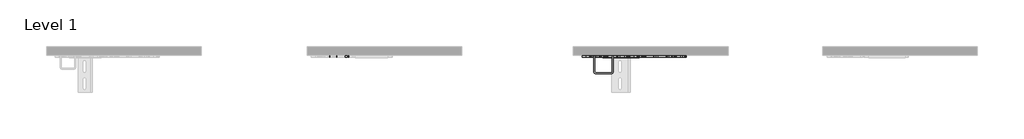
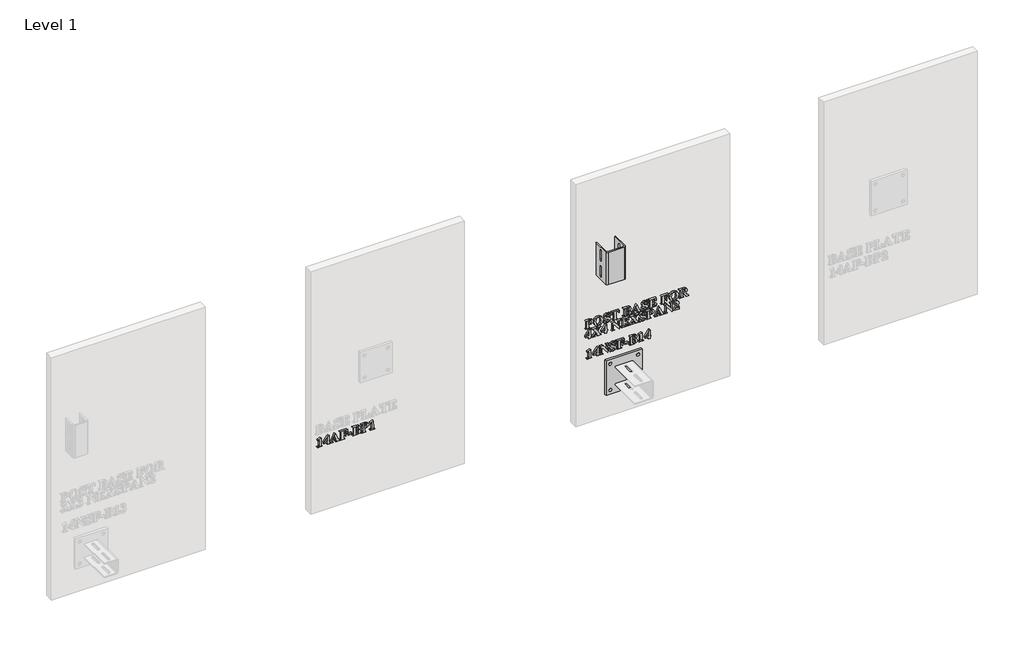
# One storey, part 12 of 21: 5 proxies.
"""IFC4 building model written with IfcOpenShell, lengths in millimetres."""

from ifc_helpers import new_model, si_unit, frame, origin, place, context, project, spatial, polyline, outline, extrude, transform, mapped, element, save
from components import generic_models_8fb2d385, generic_models_17b1e017

model = new_model("IFC4")

# Units and contexts
model_context = context("Model", 3, world=origin())
ifc_project = project(units=[si_unit("LENGTHUNIT", "METRE", prefix="MILLI")], contexts=[model_context])

# Site, building, storey
site = spatial("IfcSite", under=ifc_project)
building = spatial("IfcBuilding", under=site)
storey = spatial("IfcBuildingStorey", under=building, Name="Level 1", Elevation=0.0)

# Proxies
placement = place(None, origin())
element("IfcBuildingElementProxy", 1, Name="2\"\" Arial", ObjectType="2\"\" Arial", at=placement, inside=storey, context=model_context, shape_type="SweptSolid", body=[
    extrude(outline(polyline([(624.2127681, 17684.7890158), (625.1268914, 17698.043803), (630.022991, 17707.1781105), (638.6586857, 17710.4952699), (648.6032388, 17705.4468164), (652.5782899, 17688.7917676), (652.5782899, 17665.2877195), (650.8054448, 17665.2877195), (650.2029545, 17670.0730163), (648.5963136, 17671.8666369), (643.7140644, 17672.3791), (609.1435847, 17672.3791), (604.2751858, 17671.8666369), (602.6685449, 17670.0937918), (602.0522042, 17665.2877195), (600.2793591, 17665.2877195), (600.2793591, 17691.8803962), (602.0522042, 17691.8803962), (602.6546946, 17687.1089498), (604.2613354, 17685.3014788), (609.1435847, 17684.7890158), (624.2127681, 17684.7890158)]), holes=[polyline([(649.9190223, 17684.7890158), (649.9190223, 17686.5757112), (647.1628021, 17695.1975556), (638.4786311, 17698.0853541), (629.6421063, 17695.1975556), (626.7889337, 17686.9773714), (626.8720358, 17684.7890158), (649.9190223, 17684.7890158)])]), frame((0.0, -15490.3579358, 0.0), z_axis=(0.0, 1.0, 0.0), x_axis=(0.0, 0.0, 1.0)), (0.0, 0.0, 1.0), 12.7),
    extrude(outline(polyline([(653.4647125, 17742.0602231), (651.8788471, 17731.5183736), (646.1794271, 17722.7736073), (637.4606302, 17716.8889388), (626.8166344, 17714.9273827), (617.1733265, 17716.4336085), (608.9358294, 17720.952286), (601.7786598, 17730.1696955), (599.3929366, 17742.5588358), (601.8929252, 17754.9168128), (609.392891, 17764.1238346), (626.8581854, 17769.8855812), (637.4969874, 17767.953457), (646.2002026, 17762.1570845), (651.884041, 17753.2686208), (653.4647125, 17742.0602231)]), holes=[polyline([(650.8054448, 17742.5172847), (648.6863409, 17749.130828), (641.4356814, 17753.8537982), (625.9440622, 17755.7028203), (611.8444034, 17753.8884241), (603.9774032, 17748.8191951), (602.0522042, 17742.448033), (606.5120177, 17733.6253585), (626.2487699, 17729.1101436), (643.4924587, 17732.0325679), (648.9771983, 17736.454293), (650.8054448, 17742.5172847)])]), frame((0.0, -15490.3579358, 0.0), z_axis=(0.0, 1.0, 0.0), x_axis=(0.0, 0.0, 1.0)), (0.0, 0.0, 1.0), 12.7),
    extrude(outline(polyline([(653.4647125, 17811.5474413), (653.4647125, 17809.7745962), (650.5284378, 17808.666568), (649.9190223, 17807.0322264), (651.1586288, 17803.2718557), (652.855297, 17798.722015), (653.4647125, 17793.6389356), (649.1364773, 17781.706857), (638.6448354, 17776.9769616), (632.0382173, 17778.6113032), (626.6019539, 17783.2927223), (620.6947786, 17794.1375483), (616.6504757, 17801.8937457), (613.3817925, 17805.1555037), (609.8222519, 17806.228906), (604.3859886, 17803.5627131), (602.0522042, 17796.3951557), (606.366589, 17785.5434046), (618.8942328, 17778.7498067), (618.8942328, 17776.9769616), (599.3929366, 17776.9769616), (599.3929366, 17778.7498067), (602.0660546, 17780.5711281), (602.9386268, 17782.7110075), (602.0799049, 17785.7719354), (599.9538758, 17791.3190016), (599.3929366, 17796.0073459), (604.0743557, 17809.0682282), (615.2654405, 17814.206709), (624.365122, 17811.5889924), (632.813837, 17798.9020695), (637.3013512, 17789.7608369), (640.8608918, 17785.8411872), (643.9218197, 17784.9547646), (648.7209668, 17787.3785763), (650.8054448, 17793.9574937), (646.6711146, 17803.9712985), (635.7362614, 17809.7745962), (635.7362614, 17811.5474413), (653.4647125, 17811.5474413)])), frame((0.0, -15490.3579358, 0.0), z_axis=(0.0, 1.0, 0.0), x_axis=(0.0, 0.0, 1.0)), (0.0, 0.0, 1.0), 12.7),
    extrude(outline(polyline([(652.5782899, 17865.6192173), (652.5782899, 17819.5252443), (637.5091065, 17819.5252443), (637.5091065, 17821.2980894), (646.7195908, 17825.3977938), (649.0325997, 17832.8215827), (649.0325997, 17836.3672729), (609.1435847, 17836.3672729), (604.559118, 17835.9656127), (602.8139736, 17834.4420739), (602.0522042, 17830.9379347), (602.0522042, 17829.2758924), (600.2793591, 17829.2758924), (600.2793591, 17855.8685691), (602.0522042, 17855.8685691), (602.0522042, 17854.2203772), (602.7585722, 17850.8547416), (604.4136893, 17849.1996244), (609.1435847, 17848.7771887), (649.0325997, 17848.7771887), (649.0325997, 17852.3228789), (648.3123814, 17857.2536044), (644.7874667, 17861.2148052), (637.5091065, 17863.8463721), (637.5091065, 17865.6192173), (652.5782899, 17865.6192173)])), frame((0.0, -15490.3579358, 0.0), z_axis=(0.0, 1.0, 0.0), x_axis=(0.0, 0.0, 1.0)), (0.0, 0.0, 1.0), 12.7),
    extrude(outline(polyline([(627.7307576, 17924.123106), (632.4745034, 17933.790652), (639.2819516, 17936.5330218), (646.1240257, 17934.3654416), (650.9577987, 17928.4374908), (652.5782899, 17915.6328399), (652.5782899, 17890.4390488), (650.8054448, 17890.4390488), (650.2029545, 17895.2243456), (648.5963136, 17897.0179662), (643.7140644, 17897.5304293), (609.1435847, 17897.5304293), (604.2751858, 17897.0179662), (602.6685449, 17895.2451211), (602.0522042, 17890.4390488), (600.2793591, 17890.4390488), (600.2793591, 17916.7962695), (604.9053768, 17933.596747), (614.5590725, 17938.3058669), (623.5756519, 17934.1646115), (627.7307576, 17924.123106)]), holes=[polyline([(628.6448809, 17909.9403451), (649.9190223, 17909.9403451), (648.7625178, 17918.5552643), (645.272229, 17922.6826693), (639.4066048, 17924.123106), (633.5063546, 17922.6618938), (629.9191133, 17918.4583118), (628.6448809, 17909.9403451)]), polyline([(625.9856132, 17909.9403451), (624.877585, 17919.289333), (620.7917311, 17923.2713093), (614.1712626, 17924.123106), (608.3194887, 17922.8350232), (604.3167368, 17919.1300539), (602.9386268, 17913.8461445), (604.0051039, 17910.9237201), (607.1629843, 17909.9403451), (609.1020336, 17909.9403451), (625.9856132, 17909.9403451)])]), frame((0.0, -15490.3579358, 0.0), z_axis=(0.0, 1.0, 0.0), x_axis=(0.0, 0.0, 1.0)), (0.0, 0.0, 1.0), 12.7),
    extrude(outline(polyline([(615.3485426, 17973.2641564), (608.7003734, 17976.1865808), (604.559118, 17977.5716161), (602.869375, 17976.7267446), (602.0522042, 17971.4082092), (600.2793591, 17971.4082092), (600.2793591, 17996.8097556), (602.0522042, 17996.8097556), (603.4095388, 17993.1117115), (610.9025794, 17988.6795987), (653.4647125, 17969.0259486), (612.066009, 17950.2033196), (604.3375124, 17945.736581), (602.0522042, 17941.1174884), (600.2793591, 17941.1174884), (600.2793591, 17958.8874906), (602.0522042, 17958.8874906), (602.9386268, 17953.7628602), (606.0272554, 17951.9900151), (610.0300072, 17953.0703426), (615.3485426, 17955.4803039), (615.3485426, 17973.2641564)]), holes=[polyline([(618.8942328, 17971.712917), (618.8942328, 17957.0869448), (635.2376487, 17964.4968833), (618.8942328, 17971.712917)])]), frame((0.0, -15490.3579358, 0.0), z_axis=(0.0, 1.0, 0.0), x_axis=(0.0, 0.0, 1.0)), (0.0, 0.0, 1.0), 12.7),
    extrude(outline(polyline([(653.4647125, 18035.8123481), (653.4647125, 18034.039503), (650.5284378, 18032.9314748), (649.9190223, 18031.2971332), (651.1586288, 18027.5367625), (652.855297, 18022.9869217), (653.4647125, 18017.9038424), (649.1364773, 18005.9717637), (638.6448354, 18001.2418684), (632.0382173, 18002.87621), (626.6019539, 18007.5576291), (620.6947786, 18018.4024551), (616.6504757, 18026.1586524), (613.3817925, 18029.4204104), (609.8222519, 18030.4938127), (604.3859886, 18027.8276199), (602.0522042, 18020.6600625), (606.366589, 18009.8083114), (618.8942328, 18003.0147135), (618.8942328, 18001.2418684), (599.3929366, 18001.2418684), (599.3929366, 18003.0147135), (602.0660546, 18004.8360348), (602.9386268, 18006.9759143), (602.0799049, 18010.0368422), (599.9538758, 18015.5839083), (599.3929366, 18020.2722526), (604.0743557, 18033.333135), (615.2654405, 18038.4716157), (624.365122, 18035.8538991), (632.813837, 18023.1669763), (637.3013512, 18014.0257437), (640.8608918, 18010.1060939), (643.9218197, 18009.2196714), (648.7209668, 18011.6434831), (650.8054448, 18018.2224005), (646.6711146, 18028.2362053), (635.7362614, 18034.039503), (635.7362614, 18035.8123481), (653.4647125, 18035.8123481)])), frame((0.0, -15490.3579358, 0.0), z_axis=(0.0, 1.0, 0.0), x_axis=(0.0, 0.0, 1.0)), (0.0, 0.0, 1.0), 12.7),
    extrude(outline(polyline([(649.0325997, 18062.4050248), (649.0325997, 18066.8371375), (648.3400821, 18074.870342), (644.7320653, 18080.5628368), (636.6226839, 18083.6791661), (636.6226839, 18085.4520112), (652.5782899, 18085.4520112), (652.5782899, 18042.9037285), (650.8054448, 18042.9037285), (650.8054448, 18044.5796212), (649.7805187, 18048.4300191), (647.827619, 18049.8150544), (643.7140644, 18049.995109), (609.1435847, 18049.995109), (604.559118, 18049.5934488), (602.8139736, 18048.0976107), (602.0522042, 18044.5796212), (602.0522042, 18042.9037285), (600.2793591, 18042.9037285), (600.2793591, 18086.7123933), (616.8859317, 18087.6542173), (606.4427659, 18081.5392867), (602.9386268, 18070.2166235), (602.9386268, 18067.1972467), (603.5549675, 18064.0809174), (605.1339076, 18062.7582088), (610.4039667, 18062.4050248), (625.0991907, 18062.4050248), (624.0950401, 18067.4119272), (620.1753904, 18070.4451544), (612.6892749, 18072.1556729), (612.6892749, 18073.928518), (640.1683741, 18073.928518), (640.1683741, 18072.1556729), (630.9024884, 18069.6487591), (627.7584584, 18062.4050248), (649.0325997, 18062.4050248)])), frame((0.0, -15490.3579358, 0.0), z_axis=(0.0, 1.0, 0.0), x_axis=(0.0, 0.0, 1.0)), (0.0, 0.0, 1.0), 12.7),
    extrude(outline(polyline([(649.0325997, 18134.2052518), (649.0325997, 18138.6373646), (648.4370346, 18147.1968824), (644.7251401, 18153.6095956), (636.6226839, 18156.3658157), (636.6226839, 18158.1386608), (652.5782899, 18158.1386608), (652.5782899, 18114.7039556), (650.8054448, 18114.7039556), (650.8054448, 18116.3798482), (650.0990768, 18119.7316335), (648.4439597, 18121.3867506), (643.7140644, 18121.795336), (609.1435847, 18121.795336), (604.559118, 18121.3936758), (602.8139736, 18119.8978378), (602.0522042, 18116.3798482), (602.0522042, 18114.7039556), (600.2793591, 18114.7039556), (600.2793591, 18141.2966323), (602.0522042, 18141.2966323), (602.0522042, 18139.63459), (602.7585722, 18136.2897299), (604.4136893, 18134.6276876), (609.1435847, 18134.2052518), (625.0991907, 18134.2052518), (625.0991907, 18135.9780969), (622.6823042, 18142.8894228), (612.6892749, 18146.6151676), (612.6892749, 18148.3880127), (641.0547967, 18148.3880127), (641.0547967, 18146.6151676), (633.6725588, 18144.7592204), (629.7944602, 18141.2758568), (628.6448809, 18135.9780969), (628.6448809, 18134.2052518), (649.0325997, 18134.2052518)])), frame((0.0, -15490.3579358, 0.0), z_axis=(0.0, 1.0, 0.0), x_axis=(0.0, 0.0, 1.0)), (0.0, 0.0, 1.0), 12.7),
    extrude(outline(polyline([(653.4647125, 18190.5900366), (651.8788471, 18180.0481871), (646.1794271, 18171.3034208), (637.4606302, 18165.4187524), (626.8166344, 18163.4571962), (617.1733265, 18164.963422), (608.9358294, 18169.4820995), (601.7786598, 18178.6995091), (599.3929366, 18191.0886493), (601.8929252, 18203.4466263), (609.392891, 18212.6536481), (626.8581854, 18218.4153947), (637.4969874, 18216.4832705), (646.2002026, 18210.686898), (651.884041, 18201.7984343), (653.4647125, 18190.5900366)]), holes=[polyline([(650.8054448, 18191.0470983), (648.6863409, 18197.6606415), (641.4356814, 18202.3836117), (625.9440622, 18204.2326338), (611.8444034, 18202.4182376), (603.9774032, 18197.3490086), (602.0522042, 18190.9778465), (606.5120177, 18182.155172), (626.2487699, 18177.6399571), (643.4924587, 18180.5623815), (648.9771983, 18184.9841065), (650.8054448, 18191.0470983)])]), frame((0.0, -15490.3579358, 0.0), z_axis=(0.0, 1.0, 0.0), x_axis=(0.0, 0.0, 1.0)), (0.0, 0.0, 1.0), 12.7),
    extrude(outline(polyline([(624.2127681, 18242.3488037), (624.2127681, 18245.7836911), (600.2793591, 18262.5703183), (600.2793591, 18278.6921285), (602.0522042, 18278.6921285), (603.3956884, 18275.4234453), (607.7723998, 18272.2794153), (625.4592998, 18259.8694995), (628.9911397, 18266.8223765), (638.395529, 18270.7143255), (646.5326111, 18267.9511802), (651.2902072, 18260.8182487), (652.5782899, 18247.0163725), (652.5782899, 18222.8475075), (650.8054448, 18222.8475075), (650.2029545, 18227.6328042), (648.5963136, 18229.4264249), (643.7140644, 18229.9388879), (609.1435847, 18229.9388879), (604.2751858, 18229.4264249), (602.6685449, 18227.6535798), (602.0522042, 18222.8475075), (600.2793591, 18222.8475075), (600.2793591, 18249.4401842), (602.0522042, 18249.4401842), (602.6546946, 18244.6548874), (604.2613354, 18242.8612667), (609.1435847, 18242.3488037), (624.2127681, 18242.3488037)]), holes=[polyline([(649.9190223, 18242.3488037), (649.9190223, 18246.4762087), (647.0450741, 18255.5066385), (638.160073, 18258.3044097), (631.4288018, 18256.7808709), (627.862336, 18252.5911393), (626.8720358, 18244.5510097), (626.8720358, 18242.3488037), (649.9190223, 18242.3488037)])]), frame((0.0, -15490.3579358, 0.0), z_axis=(0.0, 1.0, 0.0), x_axis=(0.0, 0.0, 1.0)), (0.0, 0.0, 1.0), 12.7),
    extrude(outline(polyline([(555.684317, 17666.1741421), (547.706514, 17666.1741421), (547.706514, 17684.7890158), (536.1830208, 17684.7890158), (536.1830208, 17696.312509), (547.706514, 17696.312509), (547.706514, 17700.7446218), (555.684317, 17700.7446218), (555.684317, 17696.312509), (589.3683741, 17696.312509), (589.3683741, 17691.2017289), (555.684317, 17666.1741421)]), holes=[polyline([(555.684317, 17668.8611105), (577.1108122, 17684.7890158), (555.684317, 17684.7890158), (555.684317, 17668.8611105)])]), frame((0.0, -15490.3579358, 0.0), z_axis=(0.0, 1.0, 0.0), x_axis=(0.0, 0.0, 1.0)), (0.0, 0.0, 1.0), 12.7),
    extrude(outline(polyline([(566.5845444, 17736.5062318), (578.4681468, 17745.9937232), (584.2021927, 17751.0075508), (586.1481672, 17753.9715262), (586.7091065, 17757.6280193), (588.4819516, 17757.6280193), (588.4819516, 17738.1959748), (586.7091065, 17738.1959748), (586.2243441, 17741.6585629), (584.88086, 17743.3760066), (583.0110624, 17743.9715718), (575.9473826, 17739.7333639), (569.5069687, 17734.5810328), (579.146814, 17728.2514217), (584.3406962, 17725.3289974), (586.0304392, 17726.2154199), (586.7091065, 17730.6336823), (588.4819516, 17730.6336823), (588.4819516, 17705.0936324), (586.7091065, 17705.0936324), (585.9334867, 17707.8637029), (584.2021927, 17709.8997047), (579.0775623, 17713.6392999), (559.4377625, 17726.5478284), (546.8616425, 17716.4786222), (539.7425613, 17709.2764389), (537.9558659, 17703.8886518), (536.1830208, 17703.8886518), (536.1830208, 17724.2348195), (537.9558659, 17724.2348195), (538.1774715, 17720.9245853), (539.4655543, 17718.1891407), (541.4046036, 17717.2680922), (547.000146, 17720.8414832), (556.5291885, 17728.459177), (545.781315, 17735.5228568), (540.4627797, 17738.4868322), (538.8422884, 17737.6004096), (537.9558659, 17733.6807599), (536.1830208, 17733.6807599), (536.1830208, 17758.9715034), (537.9558659, 17758.9715034), (539.2993501, 17755.3704118), (545.6428115, 17750.2596318), (566.5845444, 17736.5062318)])), frame((0.0, -15490.3579358, 0.0), z_axis=(0.0, 1.0, 0.0), x_axis=(0.0, 0.0, 1.0)), (0.0, 0.0, 1.0), 12.7),
    extrude(outline(polyline([(555.684317, 17761.9077782), (547.706514, 17761.9077782), (547.706514, 17780.5226518), (536.1830208, 17780.5226518), (536.1830208, 17792.0461451), (547.706514, 17792.0461451), (547.706514, 17796.4782579), (555.684317, 17796.4782579), (555.684317, 17792.0461451), (589.3683741, 17792.0461451), (589.3683741, 17786.935365), (555.684317, 17761.9077782)]), holes=[polyline([(555.684317, 17764.5947465), (577.1108122, 17780.5226518), (555.684317, 17780.5226518), (555.684317, 17764.5947465)])]), frame((0.0, -15490.3579358, 0.0), z_axis=(0.0, 1.0, 0.0), x_axis=(0.0, 0.0, 1.0)), (0.0, 0.0, 1.0), 12.7),
    extrude(outline(polyline([(588.4819516, 17838.61103), (588.4819516, 17820.1900612), (586.7091065, 17820.1900612), (586.1066161, 17823.8534795), (582.955661, 17827.5030473), (545.0472463, 17827.5030473), (539.5971326, 17825.9448827), (537.9558659, 17820.4116669), (536.1830208, 17820.4116669), (536.1830208, 17838.140118), (537.9558659, 17837.0459402), (539.4170781, 17832.8700589), (545.0472463, 17831.0487376), (578.4542964, 17831.0487376), (535.2965982, 17864.8712982), (535.2965982, 17866.5056398), (577.8448809, 17866.5056398), (583.2811442, 17867.1635316), (585.5664524, 17868.9987033), (586.7091065, 17873.5970203), (588.4819516, 17873.5970203), (588.4819516, 17855.8685691), (586.7091065, 17855.8685691), (584.4653494, 17861.6995675), (577.8448809, 17862.9599496), (557.4156111, 17862.9599496), (588.4819516, 17838.61103)])), frame((0.0, -15490.3579358, 0.0), z_axis=(0.0, 1.0, 0.0), x_axis=(0.0, 0.0, 1.0)), (0.0, 0.0, 1.0), 12.7),
    extrude(outline(polyline([(584.9362614, 17897.5304293), (584.9362614, 17901.9625421), (584.2437437, 17909.9957465), (580.6357269, 17915.6882413), (572.5263456, 17918.8045706), (572.5263456, 17920.5774157), (588.4819516, 17920.5774157), (588.4819516, 17878.029133), (586.7091065, 17878.029133), (586.7091065, 17879.7050257), (585.6841804, 17883.5554237), (583.7312807, 17884.9404589), (579.617726, 17885.1205135), (545.0472463, 17885.1205135), (540.4627797, 17884.7188533), (538.7176353, 17883.2230152), (537.9558659, 17879.7050257), (537.9558659, 17878.029133), (536.1830208, 17878.029133), (536.1830208, 17921.8377978), (552.7895933, 17922.7796218), (542.3464276, 17916.6646912), (538.8422884, 17905.3420281), (538.8422884, 17902.3226512), (539.4586291, 17899.2063219), (541.0375693, 17897.8836133), (546.3076284, 17897.5304293), (561.0028523, 17897.5304293), (559.9987018, 17902.5373317), (556.079052, 17905.5705589), (548.5929366, 17907.2810774), (548.5929366, 17909.0539225), (576.0720358, 17909.0539225), (576.0720358, 17907.2810774), (566.80615, 17904.7741636), (563.66212, 17897.5304293), (584.9362614, 17897.5304293)])), frame((0.0, -15490.3579358, 0.0), z_axis=(0.0, 1.0, 0.0), x_axis=(0.0, 0.0, 1.0)), (0.0, 0.0, 1.0), 12.7),
    extrude(outline(polyline([(566.5845444, 17960.7711385), (578.4681468, 17970.25863), (584.2021927, 17975.2724575), (586.1481672, 17978.236433), (586.7091065, 17981.892926), (588.4819516, 17981.892926), (588.4819516, 17962.4608815), (586.7091065, 17962.4608815), (586.2243441, 17965.9234696), (584.88086, 17967.6409134), (583.0110624, 17968.2364785), (575.9473826, 17963.9982707), (569.5069687, 17958.8459395), (579.146814, 17952.5163285), (584.3406962, 17949.5939041), (586.0304392, 17950.4803267), (586.7091065, 17954.8985891), (588.4819516, 17954.8985891), (588.4819516, 17929.3585392), (586.7091065, 17929.3585392), (585.9334867, 17932.1286097), (584.2021927, 17934.1646115), (579.0775623, 17937.9042067), (559.4377625, 17950.8127351), (546.8616425, 17940.7435289), (539.7425613, 17933.5413456), (537.9558659, 17928.1535585), (536.1830208, 17928.1535585), (536.1830208, 17948.4997263), (537.9558659, 17948.4997263), (538.1774715, 17945.189492), (539.4655543, 17942.4540474), (541.4046036, 17941.532999), (547.000146, 17945.1063899), (556.5291885, 17952.7240838), (545.781315, 17959.7877635), (540.4627797, 17962.7517389), (538.8422884, 17961.8653164), (537.9558659, 17957.9456666), (536.1830208, 17957.9456666), (536.1830208, 17983.2364102), (537.9558659, 17983.2364102), (539.2993501, 17979.6353186), (545.6428115, 17974.5245385), (566.5845444, 17960.7711385)])), frame((0.0, -15490.3579358, 0.0), z_axis=(0.0, 1.0, 0.0), x_axis=(0.0, 0.0, 1.0)), (0.0, 0.0, 1.0), 12.7),
    extrude(outline(polyline([(589.3683741, 18022.5160097), (589.3683741, 18020.7431646), (586.4320994, 18019.6351364), (585.8226839, 18018.0007948), (587.0622905, 18014.2404241), (588.7589586, 18009.6905834), (589.3683741, 18004.607504), (585.040139, 17992.6754254), (574.548497, 17987.94553), (567.9418789, 17989.5798716), (562.5056156, 17994.2612907), (556.5984403, 18005.1061167), (552.5541373, 18012.8623141), (549.2854542, 18016.1240721), (545.7259136, 18017.1974744), (540.2896503, 18014.5312815), (537.9558659, 18007.3637242), (542.2702507, 17996.511973), (554.7978944, 17989.7183751), (554.7978944, 17987.94553), (535.2965982, 17987.94553), (535.2965982, 17989.7183751), (537.9697162, 17991.5396965), (538.8422884, 17993.6795759), (537.9835666, 17996.7405038), (535.8575375, 18002.28757), (535.2965982, 18006.9759143), (539.9780173, 18020.0367966), (551.1691021, 18025.1752774), (560.2687837, 18022.5575608), (568.7174987, 18009.8706379), (573.2050128, 18000.7294053), (576.7645534, 17996.8097556), (579.8254813, 17995.923333), (584.6246284, 17998.3471447), (586.7091065, 18004.9260621), (582.5747763, 18014.9398669), (571.639923, 18020.7431646), (571.639923, 18022.5160097), (589.3683741, 18022.5160097)])), frame((0.0, -15490.3579358, 0.0), z_axis=(0.0, 1.0, 0.0), x_axis=(0.0, 0.0, 1.0)), (0.0, 0.0, 1.0), 12.7),
    extrude(outline(polyline([(560.1164298, 18048.2222639), (561.030553, 18061.4770512), (565.9266526, 18070.6113586), (574.5623474, 18073.928518), (584.5069004, 18068.8800645), (588.4819516, 18052.2250157), (588.4819516, 18028.7209676), (586.7091065, 18028.7209676), (586.1066161, 18033.5062644), (584.4999753, 18035.299885), (579.617726, 18035.8123481), (545.0472463, 18035.8123481), (540.1788474, 18035.299885), (538.5722066, 18033.5270399), (537.9558659, 18028.7209676), (536.1830208, 18028.7209676), (536.1830208, 18055.3136443), (537.9558659, 18055.3136443), (538.5583562, 18050.5421979), (540.1649971, 18048.7347269), (545.0472463, 18048.2222639), (560.1164298, 18048.2222639)]), holes=[polyline([(585.8226839, 18048.2222639), (585.8226839, 18050.0089593), (583.0664638, 18058.6308037), (574.3822928, 18061.5186022), (565.5457679, 18058.6308037), (562.6925953, 18050.4106195), (562.7756975, 18048.2222639), (585.8226839, 18048.2222639)])]), frame((0.0, -15490.3579358, 0.0), z_axis=(0.0, 1.0, 0.0), x_axis=(0.0, 0.0, 1.0)), (0.0, 0.0, 1.0), 12.7),
    extrude(outline(polyline([(551.2522042, 18108.000385), (544.604035, 18110.9228094), (540.4627797, 18112.3078446), (538.7730367, 18111.4629731), (537.9558659, 18106.1444378), (536.1830208, 18106.1444378), (536.1830208, 18131.5459842), (537.9558659, 18131.5459842), (539.3132004, 18127.8479401), (546.8062411, 18123.4158273), (589.3683741, 18103.7621772), (547.9696707, 18084.9395482), (540.241174, 18080.4728095), (537.9558659, 18075.853717), (536.1830208, 18075.853717), (536.1830208, 18093.6237192), (537.9558659, 18093.6237192), (538.8422884, 18088.4990888), (541.930917, 18086.7262437), (545.9336689, 18087.8065711), (551.2522042, 18090.2165325), (551.2522042, 18108.000385)]), holes=[polyline([(554.7978944, 18106.4491455), (554.7978944, 18091.8231734), (571.1413103, 18099.2331119), (554.7978944, 18106.4491455)])]), frame((0.0, -15490.3579358, 0.0), z_axis=(0.0, 1.0, 0.0), x_axis=(0.0, 0.0, 1.0)), (0.0, 0.0, 1.0), 12.7),
    extrude(outline(polyline([(588.4819516, 18151.5181924), (588.4819516, 18133.0972236), (586.7091065, 18133.0972236), (586.1066161, 18136.7606419), (582.955661, 18140.4102097), (545.0472463, 18140.4102097), (539.5971326, 18138.8520451), (537.9558659, 18133.3188293), (536.1830208, 18133.3188293), (536.1830208, 18151.0472804), (537.9558659, 18149.9531026), (539.4170781, 18145.7772213), (545.0472463, 18143.9558999), (578.4542964, 18143.9558999), (535.2965982, 18177.7784606), (535.2965982, 18179.4128022), (577.8448809, 18179.4128022), (583.2811442, 18180.0706939), (585.5664524, 18181.9058656), (586.7091065, 18186.5041827), (588.4819516, 18186.5041827), (588.4819516, 18168.7757315), (586.7091065, 18168.7757315), (584.4653494, 18174.6067299), (577.8448809, 18175.867112), (557.4156111, 18175.867112), (588.4819516, 18151.5181924)])), frame((0.0, -15490.3579358, 0.0), z_axis=(0.0, 1.0, 0.0), x_axis=(0.0, 0.0, 1.0)), (0.0, 0.0, 1.0), 12.7),
    extrude(outline(polyline([(536.1830208, 18220.5899), (551.2522042, 18222.2103913), (548.1635756, 18220.1120629), (547.1247992, 18218.076061), (546.8200914, 18212.7228998), (546.8200914, 18201.5595158), (566.3906394, 18218.2768912), (576.6260499, 18221.0746624), (582.5609259, 18219.1840892), (587.5470528, 18213.9555812), (589.3683741, 18206.5733433), (585.864235, 18196.5803141), (574.548497, 18191.5595613), (579.0152357, 18195.7285174), (580.5041486, 18201.3102094), (577.8241054, 18207.7852492), (571.0997593, 18210.4375917), (559.7286199, 18207.3351127), (536.1830208, 18189.1634503), (536.1830208, 18220.5899)])), frame((0.0, -15490.3579358, 0.0), z_axis=(0.0, 1.0, 0.0), x_axis=(0.0, 0.0, 1.0)), (0.0, 0.0, 1.0), 12.7),
])
element("IfcBuildingElementProxy", 2, Name="2\"\" Arial", ObjectType="2\"\" Arial", at=placement, inside=storey, context=model_context, shape_type="SweptSolid", body=[
    extrude(outline(polyline([(463.8692305, 17694.9409375), (455.0050049, 17675.1834097), (453.2321598, 17675.8482267), (454.4648412, 17680.4049926), (453.827725, 17682.4825455), (452.3111114, 17683.7152269), (447.9136245, 17684.0476353), (421.3209478, 17684.0476353), (415.2544934, 17683.5282471), (413.2046413, 17681.5407215), (412.4567222, 17675.1834097), (410.6838771, 17675.1834097), (410.6838771, 17703.5489316), (412.4567222, 17702.3162502), (413.273893, 17697.8425863), (415.3791466, 17696.0074146), (421.3209478, 17695.5711285), (463.8692305, 17694.9409375)])), frame((0.0, -15490.3579358, 0.0), z_axis=(0.0, 1.0, 0.0), x_axis=(0.0, 0.0, 1.0)), (0.0, 0.0, 1.0), 12.7),
    extrude(outline(polyline([(430.1851733, 17712.4131571), (422.2073703, 17712.4131571), (422.2073703, 17731.0280308), (410.6838771, 17731.0280308), (410.6838771, 17742.551524), (422.2073703, 17742.551524), (422.2073703, 17746.9836368), (430.1851733, 17746.9836368), (430.1851733, 17742.551524), (463.8692305, 17742.551524), (463.8692305, 17737.440744), (430.1851733, 17712.4131571)]), holes=[polyline([(430.1851733, 17715.1001255), (451.6116686, 17731.0280308), (430.1851733, 17731.0280308), (430.1851733, 17715.1001255)])]), frame((0.0, -15490.3579358, 0.0), z_axis=(0.0, 1.0, 0.0), x_axis=(0.0, 0.0, 1.0)), (0.0, 0.0, 1.0), 12.7),
    extrude(outline(polyline([(462.9828079, 17769.6151127), (462.9828079, 17751.194144), (461.2099628, 17751.194144), (460.6074725, 17754.8575622), (457.4565173, 17758.50713), (419.5481027, 17758.50713), (414.097989, 17756.9489654), (412.4567222, 17751.4157496), (410.6838771, 17751.4157496), (410.6838771, 17769.1442007), (412.4567222, 17768.0500229), (413.9179344, 17763.8741416), (419.5481027, 17762.0528203), (452.9551528, 17762.0528203), (409.7974546, 17795.8753809), (409.7974546, 17797.5097225), (452.3457373, 17797.5097225), (457.7820006, 17798.1676143), (460.0673087, 17800.002786), (461.2099628, 17804.601103), (462.9828079, 17804.601103), (462.9828079, 17786.8726518), (461.2099628, 17786.8726518), (458.9662057, 17792.7036502), (452.3457373, 17793.9640323), (431.9164674, 17793.9640323), (462.9828079, 17769.6151127)])), frame((0.0, -15490.3579358, 0.0), z_axis=(0.0, 1.0, 0.0), x_axis=(0.0, 0.0, 1.0)), (0.0, 0.0, 1.0), 12.7),
    extrude(outline(polyline([(463.8692305, 17845.3765406), (463.8692305, 17843.6036955), (460.9329558, 17842.4956673), (460.3235403, 17840.8613257), (461.5631468, 17837.100955), (463.259815, 17832.5511142), (463.8692305, 17827.4680349), (459.5409954, 17815.5359562), (449.0493534, 17810.8060609), (442.4427353, 17812.4404025), (437.0064719, 17817.1218216), (431.0992966, 17827.9666475), (427.0549937, 17835.7228449), (423.7863105, 17838.9846029), (420.2267699, 17840.0580052), (414.7905066, 17837.3918124), (412.4567222, 17830.224255), (416.771107, 17819.3725039), (429.2987508, 17812.578906), (429.2987508, 17810.8060609), (409.7974546, 17810.8060609), (409.7974546, 17812.578906), (412.4705726, 17814.4002273), (413.3431448, 17816.5401068), (412.4844229, 17819.6010347), (410.3583938, 17825.1481008), (409.7974546, 17829.8364451), (414.4788737, 17842.8973275), (425.6699585, 17848.0358082), (434.76964, 17845.4180916), (443.218355, 17832.7311688), (447.7058692, 17823.5899362), (451.2654098, 17819.6702864), (454.3263377, 17818.7838639), (459.1254848, 17821.2076756), (461.2099628, 17827.786593), (457.0756326, 17837.8003978), (446.1407794, 17843.6036955), (446.1407794, 17845.3765406), (463.8692305, 17845.3765406)])), frame((0.0, -15490.3579358, 0.0), z_axis=(0.0, 1.0, 0.0), x_axis=(0.0, 0.0, 1.0)), (0.0, 0.0, 1.0), 12.7),
    extrude(outline(polyline([(459.4371177, 17871.9692173), (459.4371177, 17876.40133), (458.8415526, 17884.9608478), (455.1296581, 17891.373561), (447.0272019, 17894.1297812), (447.0272019, 17895.9026263), (462.9828079, 17895.9026263), (462.9828079, 17852.467921), (461.2099628, 17852.467921), (461.2099628, 17854.1438137), (460.5035948, 17857.495599), (458.8484777, 17859.1507161), (454.1185824, 17859.5593015), (419.5481027, 17859.5593015), (414.963636, 17859.1576412), (413.2184916, 17857.6618032), (412.4567222, 17854.1438137), (412.4567222, 17852.467921), (410.6838771, 17852.467921), (410.6838771, 17879.0605977), (412.4567222, 17879.0605977), (412.4567222, 17877.3985554), (413.1630902, 17874.0536953), (414.8182073, 17872.391653), (419.5481027, 17871.9692173), (435.5037087, 17871.9692173), (435.5037087, 17873.7420624), (433.0868222, 17880.6533882), (423.0937929, 17884.379133), (423.0937929, 17886.1519782), (451.4593147, 17886.1519782), (451.4593147, 17884.379133), (444.0770768, 17882.5231858), (440.1989782, 17879.0398222), (439.0493989, 17873.7420624), (439.0493989, 17871.9692173), (459.4371177, 17871.9692173)])), frame((0.0, -15490.3579358, 0.0), z_axis=(0.0, 1.0, 0.0), x_axis=(0.0, 0.0, 1.0)), (0.0, 0.0, 1.0), 12.7),
    extrude(outline(polyline([(17921.6088804, -15490.3579358), (17899.4483165, -15490.3579358), (17899.4483165, -15477.6579358), (17921.6088804, -15477.6579358), (17921.6088804, -15490.3579358)])), frame((0.0, 0.0, 424.866638), z_axis=(0.0, 0.0, 1.0), x_axis=(1.0, 0.0, 0.0)), (0.0, 0.0, 1.0), 7.977803),
    extrude(outline(polyline([(438.1352757, 17960.6114729), (442.8790214, 17970.2790189), (449.6864696, 17973.0213887), (456.5285437, 17970.8538085), (461.3623167, 17964.9258577), (462.9828079, 17952.1212068), (462.9828079, 17926.9274157), (461.2099628, 17926.9274157), (460.6074725, 17931.7127125), (459.0008316, 17933.5063332), (454.1185824, 17934.0187962), (419.5481027, 17934.0187962), (414.6797038, 17933.5063332), (413.0730629, 17931.733488), (412.4567222, 17926.9274157), (410.6838771, 17926.9274157), (410.6838771, 17953.2846364), (415.3098948, 17970.085114), (424.9635905, 17974.7942338), (433.9801699, 17970.6529784), (438.1352757, 17960.6114729)]), holes=[polyline([(439.0493989, 17946.428712), (460.3235403, 17946.428712), (459.1670358, 17955.0436312), (455.676747, 17959.1710362), (449.8111228, 17960.6114729), (443.9108726, 17959.1502607), (440.3236313, 17954.9466787), (439.0493989, 17946.428712)]), polyline([(436.3901312, 17946.428712), (435.282103, 17955.7776999), (431.1962491, 17959.7596762), (424.5757806, 17960.6114729), (418.7240067, 17959.3233901), (414.7212548, 17955.6184208), (413.3431448, 17950.3345114), (414.4096219, 17947.412087), (417.5675023, 17946.428712), (419.5065516, 17946.428712), (436.3901312, 17946.428712)])]), frame((0.0, -15490.3579358, 0.0), z_axis=(0.0, 1.0, 0.0), x_axis=(0.0, 0.0, 1.0)), (0.0, 0.0, 1.0), 12.7),
    extrude(outline(polyline([(463.8692305, 18001.643142), (455.0050049, 17981.8856142), (453.2321598, 17982.5504312), (454.4648412, 17987.1071971), (453.827725, 17989.18475), (452.3111114, 17990.4174313), (447.9136245, 17990.7498398), (421.3209478, 17990.7498398), (415.2544934, 17990.2304516), (413.2046413, 17988.242926), (412.4567222, 17981.8856142), (410.6838771, 17981.8856142), (410.6838771, 18010.251136), (412.4567222, 18009.0184547), (413.273893, 18004.5447908), (415.3791466, 18002.7096191), (421.3209478, 18002.273333), (463.8692305, 18001.643142)])), frame((0.0, -15490.3579358, 0.0), z_axis=(0.0, 1.0, 0.0), x_axis=(0.0, 0.0, 1.0)), (0.0, 0.0, 1.0), 12.7),
    extrude(outline(polyline([(430.1851733, 18019.1153616), (422.2073703, 18019.1153616), (422.2073703, 18037.7302353), (410.6838771, 18037.7302353), (410.6838771, 18049.2537285), (422.2073703, 18049.2537285), (422.2073703, 18053.6858413), (430.1851733, 18053.6858413), (430.1851733, 18049.2537285), (463.8692305, 18049.2537285), (463.8692305, 18044.1429485), (430.1851733, 18019.1153616)]), holes=[polyline([(430.1851733, 18021.80233), (451.6116686, 18037.7302353), (430.1851733, 18037.7302353), (430.1851733, 18021.80233)])]), frame((0.0, -15490.3579358, 0.0), z_axis=(0.0, 1.0, 0.0), x_axis=(0.0, 0.0, 1.0)), (0.0, 0.0, 1.0), 12.7),
])
element("IfcBuildingElementProxy", 3, Name="2\"\" Arial", ObjectType="2\"\" Arial", at=placement, inside=storey, context=model_context, shape_type="SweptSolid", body=[
    extrude(outline(polyline([(468.5964659, 16093.5213318), (459.7322403, 16073.7638041), (457.9593952, 16074.428621), (459.1920765, 16078.9853869), (458.5549603, 16081.0629398), (457.0383467, 16082.2956212), (452.6408598, 16082.6280296), (426.0481832, 16082.6280296), (419.9817288, 16082.1086414), (417.9318766, 16080.1211158), (417.1839576, 16073.7638041), (415.4111125, 16073.7638041), (415.4111125, 16102.1293259), (417.1839576, 16100.8966445), (418.0011284, 16096.4229807), (420.106382, 16094.587809), (426.0481832, 16094.1515229), (468.5964659, 16093.5213318)])), frame((0.0, -15490.3579358, 0.0), z_axis=(0.0, 1.0, 0.0), x_axis=(0.0, 0.0, 1.0)), (0.0, 0.0, 1.0), 12.7),
    extrude(outline(polyline([(434.9124087, 16110.9935514), (426.9346057, 16110.9935514), (426.9346057, 16129.6084251), (415.4111125, 16129.6084251), (415.4111125, 16141.1319184), (426.9346057, 16141.1319184), (426.9346057, 16145.5640311), (434.9124087, 16145.5640311), (434.9124087, 16141.1319184), (468.5964659, 16141.1319184), (468.5964659, 16136.0211383), (434.9124087, 16110.9935514)]), holes=[polyline([(434.9124087, 16113.6805198), (456.3389039, 16129.6084251), (434.9124087, 16129.6084251), (434.9124087, 16113.6805198)])]), frame((0.0, -15490.3579358, 0.0), z_axis=(0.0, 1.0, 0.0), x_axis=(0.0, 0.0, 1.0)), (0.0, 0.0, 1.0), 12.7),
    extrude(outline(polyline([(430.4802959, 16181.4087433), (423.8321268, 16184.3311676), (419.6908714, 16185.7162029), (418.0011284, 16184.8713314), (417.1839576, 16179.552796), (415.4111125, 16179.552796), (415.4111125, 16204.9543424), (417.1839576, 16204.9543424), (418.5412921, 16201.2562983), (426.0343328, 16196.8241855), (468.5964659, 16177.1705354), (427.1977624, 16158.3479064), (419.4692657, 16153.8811678), (417.1839576, 16149.2620752), (415.4111125, 16149.2620752), (415.4111125, 16167.0320774), (417.1839576, 16167.0320774), (418.0703801, 16161.907447), (421.1590087, 16160.1346019), (425.1617606, 16161.2149294), (430.4802959, 16163.6248907), (430.4802959, 16181.4087433)]), holes=[polyline([(434.0259862, 16179.8575038), (434.0259862, 16165.2315316), (450.369402, 16172.6414702), (434.0259862, 16179.8575038)])]), frame((0.0, -15490.3579358, 0.0), z_axis=(0.0, 1.0, 0.0), x_axis=(0.0, 0.0, 1.0)), (0.0, 0.0, 1.0), 12.7),
    extrude(outline(polyline([(464.1643531, 16227.1149063), (464.1643531, 16231.5470191), (463.5687879, 16240.1065369), (459.8568935, 16246.5192501), (451.7544373, 16249.2754702), (451.7544373, 16251.0483153), (467.7100433, 16251.0483153), (467.7100433, 16207.6136101), (465.9371982, 16207.6136101), (465.9371982, 16209.2895027), (465.2308302, 16212.641288), (463.5757131, 16214.2964051), (458.8458177, 16214.7049905), (424.275338, 16214.7049905), (419.6908714, 16214.3033303), (417.945727, 16212.8074922), (417.1839576, 16209.2895027), (417.1839576, 16207.6136101), (415.4111125, 16207.6136101), (415.4111125, 16234.2062868), (417.1839576, 16234.2062868), (417.1839576, 16232.5442445), (417.8903256, 16229.1993844), (419.5454427, 16227.5373421), (424.275338, 16227.1149063), (440.2309441, 16227.1149063), (440.2309441, 16228.8877514), (437.8140576, 16235.7990773), (427.8210283, 16239.5248221), (427.8210283, 16241.2976672), (456.1865501, 16241.2976672), (456.1865501, 16239.5248221), (448.8043122, 16237.6688749), (444.9262135, 16234.1855112), (443.7766343, 16228.8877514), (443.7766343, 16227.1149063), (464.1643531, 16227.1149063)])), frame((0.0, -15490.3579358, 0.0), z_axis=(0.0, 1.0, 0.0), x_axis=(0.0, 0.0, 1.0)), (0.0, 0.0, 1.0), 12.7),
    extrude(outline(polyline([(16276.7545695, -15490.3579358), (16254.5940056, -15490.3579358), (16254.5940056, -15477.6579358), (16276.7545695, -15477.6579358), (16276.7545695, -15490.3579358)])), frame((0.0, 0.0, 429.5938734), z_axis=(0.0, 0.0, 1.0), x_axis=(1.0, 0.0, 0.0)), (0.0, 0.0, 1.0), 7.977803),
    extrude(outline(polyline([(442.862511, 16315.757162), (447.6062567, 16325.424708), (454.413705, 16328.1670777), (461.2557791, 16325.9994976), (466.0895521, 16320.0715467), (467.7100433, 16307.2668959), (467.7100433, 16282.0731048), (465.9371982, 16282.0731048), (465.3347079, 16286.8584016), (463.728067, 16288.6520222), (458.8458177, 16289.1644853), (424.275338, 16289.1644853), (419.4069392, 16288.6520222), (417.8002983, 16286.8791771), (417.1839576, 16282.0731048), (415.4111125, 16282.0731048), (415.4111125, 16308.4303255), (420.0371302, 16325.230803), (429.6908258, 16329.9399229), (438.7074053, 16325.7986675), (442.862511, 16315.757162)]), holes=[polyline([(443.7766343, 16301.574401), (465.0507756, 16301.574401), (463.8942712, 16310.1893203), (460.4039824, 16314.3167253), (454.5383581, 16315.757162), (448.638108, 16314.2959498), (445.0508667, 16310.0923678), (443.7766343, 16301.574401)]), polyline([(441.1173666, 16301.574401), (440.0093384, 16310.9233889), (435.9234844, 16314.9053653), (429.303016, 16315.757162), (423.4512421, 16314.4690792), (419.4484902, 16310.7641099), (418.0703801, 16305.4802004), (419.1368573, 16302.5577761), (422.2947376, 16301.574401), (424.233787, 16301.574401), (441.1173666, 16301.574401)])]), frame((0.0, -15490.3579358, 0.0), z_axis=(0.0, 1.0, 0.0), x_axis=(0.0, 0.0, 1.0)), (0.0, 0.0, 1.0), 12.7),
    extrude(outline(polyline([(439.3445215, 16352.9869093), (440.2586448, 16366.2416966), (445.1547443, 16375.376004), (453.7904391, 16378.6931635), (463.7349921, 16373.64471), (467.7100433, 16356.9896612), (467.7100433, 16333.4856131), (465.9371982, 16333.4856131), (465.3347079, 16338.2709098), (463.728067, 16340.0645305), (458.8458177, 16340.5769935), (424.275338, 16340.5769935), (419.4069392, 16340.0645305), (417.8002983, 16338.2916854), (417.1839576, 16333.4856131), (415.4111125, 16333.4856131), (415.4111125, 16360.0782898), (417.1839576, 16360.0782898), (417.7864479, 16355.3068434), (419.3930888, 16353.4993724), (424.275338, 16352.9869093), (439.3445215, 16352.9869093)]), holes=[polyline([(465.0507756, 16352.9869093), (465.0507756, 16354.7736048), (462.2945555, 16363.3954492), (453.6103845, 16366.2832477), (444.7738597, 16363.3954492), (441.920687, 16355.175265), (442.0037892, 16352.9869093), (465.0507756, 16352.9869093)])]), frame((0.0, -15490.3579358, 0.0), z_axis=(0.0, 1.0, 0.0), x_axis=(0.0, 0.0, 1.0)), (0.0, 0.0, 1.0), 12.7),
    extrude(outline(polyline([(468.5964659, 16404.6556491), (459.7322403, 16384.8981213), (457.9593952, 16385.5629383), (459.1920765, 16390.1197042), (458.5549603, 16392.1972571), (457.0383467, 16393.4299385), (452.6408598, 16393.7623469), (426.0481832, 16393.7623469), (419.9817288, 16393.2429587), (417.9318766, 16391.2554331), (417.1839576, 16384.8981213), (415.4111125, 16384.8981213), (415.4111125, 16413.2636431), (417.1839576, 16412.0309618), (418.0011284, 16407.5572979), (420.106382, 16405.7221262), (426.0481832, 16405.2858401), (468.5964659, 16404.6556491)])), frame((0.0, -15490.3579358, 0.0), z_axis=(0.0, 1.0, 0.0), x_axis=(0.0, 0.0, 1.0)), (0.0, 0.0, 1.0), 12.7),
])
generic_models_shape = generic_models_8fb2d385(model_context)
element("IfcBuildingElementProxy", 4, Name="14NSF-B14_F : 14NSF-B14_F", ObjectType="14NSF-B14_F : 14NSF-B14_F", at=placement, inside=storey, context=model_context, shape_type="MappedRepresentation", body=[
    mapped(generic_models_shape, transform((17893.1187481, -15477.6579358, 254.0), x_axis=(1.0, 0.0, 0.0), y_axis=(0.0, 0.0, 1.0), z_axis=(0.0, -1.0, 0.0))),
])
generic_models_2_shape = generic_models_17b1e017(model_context)
element("IfcBuildingElementProxy", 5, Name="14NSF-B14 : 14NSF-B14", ObjectType="14NSF-B14 : 14NSF-B14", at=placement, inside=storey, context=model_context, shape_type="MappedRepresentation", body=[
    mapped(generic_models_2_shape, transform((17791.5187481, -15477.6579358, 914.4), x_axis=(1.0, 0.0, 0.0), y_axis=(0.0, 1.0, 0.0), z_axis=(0.0, 0.0, 1.0))),
])

save(model, "model.ifc")
